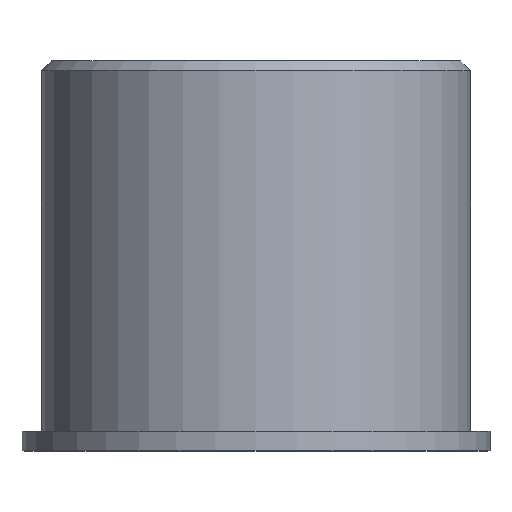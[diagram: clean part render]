
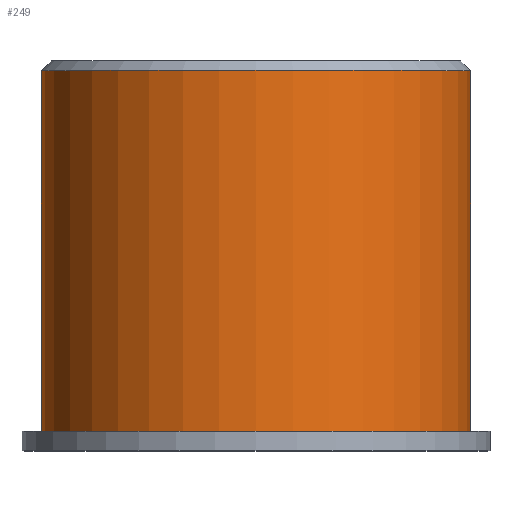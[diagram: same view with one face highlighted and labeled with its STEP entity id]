
A CAD part, top view. The second image highlights one B-rep face of the part: STEP entity #249.
In plain terms, the highlighted cylindrical face has radius 11 mm (diameter 22 mm), a full revolution.
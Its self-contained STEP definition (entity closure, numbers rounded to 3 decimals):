
#26 = VERTEX_POINT ( 'NONE', #481 ) ;
#31 = DIRECTION ( 'NONE',  ( 0., -1., 0. ) ) ;
#47 = DIRECTION ( 'NONE',  ( 0., 0., -1. ) ) ;
#103 = AXIS2_PLACEMENT_3D ( 'NONE', #213, #129, #47 ) ;
#107 = EDGE_LOOP ( 'NONE', ( #224 ) ) ;
#122 = DIRECTION ( 'NONE',  ( 0., 0., -1. ) ) ;
#126 = FACE_OUTER_BOUND ( 'NONE', #107, .T. ) ;
#129 = DIRECTION ( 'NONE',  ( 0., -1., 0. ) ) ;
#135 = EDGE_CURVE ( 'NONE', #26, #26, #424, .T. ) ;
#143 = VERTEX_POINT ( 'NONE', #475 ) ;
#146 = DIRECTION ( 'NONE',  ( 0., 0., 1. ) ) ;
#213 = CARTESIAN_POINT ( 'NONE',  ( 0., 0., 0. ) ) ;
#224 = ORIENTED_EDGE ( 'NONE', *, *, #503, .T. ) ;
#237 = CIRCLE ( 'NONE', #480, 11. ) ;
#249 = ADVANCED_FACE ( 'NONE', ( #126, #293 ), #459, .T. ) ;
#293 = FACE_OUTER_BOUND ( 'NONE', #482, .T. ) ;
#402 = AXIS2_PLACEMENT_3D ( 'NONE', #449, #491, #122 ) ;
#424 = CIRCLE ( 'NONE', #402, 11. ) ;
#432 = ORIENTED_EDGE ( 'NONE', *, *, #135, .F. ) ;
#437 = CARTESIAN_POINT ( 'NONE',  ( 0., 19.5, 0. ) ) ;
#449 = CARTESIAN_POINT ( 'NONE',  ( 0., 1., 0. ) ) ;
#459 = CYLINDRICAL_SURFACE ( 'NONE', #103, 11. ) ;
#475 = CARTESIAN_POINT ( 'NONE',  ( 0., 19.5, 11. ) ) ;
#480 = AXIS2_PLACEMENT_3D ( 'NONE', #437, #31, #146 ) ;
#481 = CARTESIAN_POINT ( 'NONE',  ( 0., 1., -11. ) ) ;
#482 = EDGE_LOOP ( 'NONE', ( #432 ) ) ;
#491 = DIRECTION ( 'NONE',  ( 0., -1., 0. ) ) ;
#503 = EDGE_CURVE ( 'NONE', #143, #143, #237, .T. ) ;
